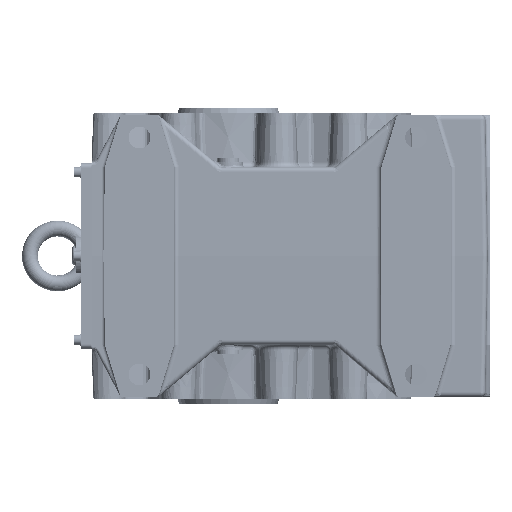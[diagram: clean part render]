
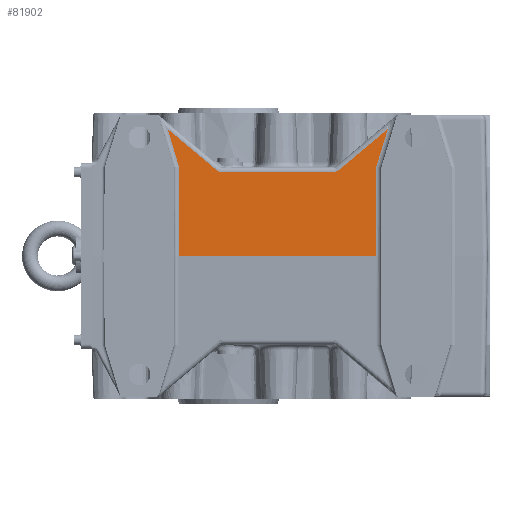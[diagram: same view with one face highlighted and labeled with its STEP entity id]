
A CAD part, left-side view. The second image highlights one B-rep face of the part: STEP entity #81902.
In plain terms, the highlighted planar face has unit normal (-1, 0, 0.018).
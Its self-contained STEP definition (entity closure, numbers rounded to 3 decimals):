
#81795=CARTESIAN_POINT('',(-154.989,50.,90.651));
#81796=VERTEX_POINT('',#81795);
#81804=CARTESIAN_POINT('',(-154.327,61.437,128.536));
#81805=VERTEX_POINT('',#81804);
#81806=CARTESIAN_POINT('',(-154.989,50.,90.651));
#81807=DIRECTION('',(0.017,0.289,0.957));
#81808=VECTOR('',#81807,39.579);
#81809=LINE('',#81806,#81808);
#81810=EDGE_CURVE('',#81796,#81805,#81809,.T.);
#81822=CARTESIAN_POINT('',(-156.571,-260.0,0.014));
#81823=DIRECTION('',(-1.,0.,0.017));
#81824=DIRECTION('',(0.017,0.,1.));
#81825=AXIS2_PLACEMENT_3D('',#81822,#81823,#81824);
#81826=PLANE('',#81825);
#81827=CARTESIAN_POINT('',(-155.045,-112.445,87.427));
#81828=VERTEX_POINT('',#81827);
#81829=CARTESIAN_POINT('',(-154.327,-161.437,128.536));
#81830=VERTEX_POINT('',#81829);
#81831=CARTESIAN_POINT('',(-155.045,-112.445,87.427));
#81832=DIRECTION('',(0.011,-0.766,0.643));
#81833=VECTOR('',#81832,63.958);
#81834=LINE('',#81831,#81833);
#81835=EDGE_CURVE('',#81828,#81830,#81834,.T.);
#81836=ORIENTED_EDGE('',*,*,#81835,.F.);
#81837=CARTESIAN_POINT('',(-155.086,-106.017,85.087));
#81838=VERTEX_POINT('',#81837);
#81839=CARTESIAN_POINT('',(-154.911,-106.017,95.087));
#81840=DIRECTION('',(-1.,0.,0.017));
#81841=DIRECTION('',(-0.017,0.,-1.));
#81842=AXIS2_PLACEMENT_3D('',#81839,#81840,#81841);
#81843=ELLIPSE('',#81842,10.002,10.0);
#81844=EDGE_CURVE('',#81838,#81828,#81843,.T.);
#81845=ORIENTED_EDGE('',*,*,#81844,.F.);
#81846=CARTESIAN_POINT('',(-155.086,6.017,85.087));
#81847=VERTEX_POINT('',#81846);
#81848=CARTESIAN_POINT('',(-155.086,6.017,85.087));
#81849=DIRECTION('',(0.0,-1.0,0.0));
#81850=VECTOR('',#81849,112.034);
#81851=LINE('',#81848,#81850);
#81852=EDGE_CURVE('',#81847,#81838,#81851,.T.);
#81853=ORIENTED_EDGE('',*,*,#81852,.F.);
#81854=CARTESIAN_POINT('',(-155.045,12.445,87.427));
#81855=VERTEX_POINT('',#81854);
#81856=CARTESIAN_POINT('',(-154.911,6.017,95.087));
#81857=DIRECTION('',(-1.,0.,0.017));
#81858=DIRECTION('',(-0.017,0.,-1.));
#81859=AXIS2_PLACEMENT_3D('',#81856,#81857,#81858);
#81860=ELLIPSE('',#81859,10.002,10.);
#81861=EDGE_CURVE('',#81855,#81847,#81860,.T.);
#81862=ORIENTED_EDGE('',*,*,#81861,.F.);
#81863=CARTESIAN_POINT('',(-154.327,61.437,128.536));
#81864=DIRECTION('',(-0.011,-0.766,-0.643));
#81865=VECTOR('',#81864,63.958);
#81866=LINE('',#81863,#81865);
#81867=EDGE_CURVE('',#81805,#81855,#81866,.T.);
#81868=ORIENTED_EDGE('',*,*,#81867,.F.);
#81869=ORIENTED_EDGE('',*,*,#81810,.F.);
#81870=CARTESIAN_POINT('',(-156.571,50.,0.0));
#81871=VERTEX_POINT('',#81870);
#81872=CARTESIAN_POINT('',(-156.571,50.,0.));
#81873=DIRECTION('',(0.017,0.0,1.));
#81874=VECTOR('',#81873,90.665);
#81875=LINE('',#81872,#81874);
#81876=EDGE_CURVE('',#81871,#81796,#81875,.T.);
#81877=ORIENTED_EDGE('',*,*,#81876,.F.);
#81878=CARTESIAN_POINT('',(-156.571,-150.0,0.0));
#81879=VERTEX_POINT('',#81878);
#81880=CARTESIAN_POINT('',(-156.571,-150.0,0.0));
#81881=DIRECTION('',(0.0,1.0,0.0));
#81882=VECTOR('',#81881,200.);
#81883=LINE('',#81880,#81882);
#81884=EDGE_CURVE('',#81871,#81879,#81883,.F.);
#81885=ORIENTED_EDGE('',*,*,#81884,.T.);
#81886=CARTESIAN_POINT('',(-154.989,-150.0,90.651));
#81887=VERTEX_POINT('',#81886);
#81888=CARTESIAN_POINT('',(-154.989,-150.0,90.651));
#81889=DIRECTION('',(-0.017,0.0,-1.));
#81890=VECTOR('',#81889,90.665);
#81891=LINE('',#81888,#81890);
#81892=EDGE_CURVE('',#81887,#81879,#81891,.T.);
#81893=ORIENTED_EDGE('',*,*,#81892,.F.);
#81894=CARTESIAN_POINT('',(-154.327,-161.437,128.536));
#81895=DIRECTION('',(-0.017,0.289,-0.957));
#81896=VECTOR('',#81895,39.579);
#81897=LINE('',#81894,#81896);
#81898=EDGE_CURVE('',#81830,#81887,#81897,.T.);
#81899=ORIENTED_EDGE('',*,*,#81898,.F.);
#81900=EDGE_LOOP('',(#81836,#81845,#81853,#81862,#81868,#81869,#81877,#81885,#81893,#81899));
#81901=FACE_OUTER_BOUND('',#81900,.T.);
#81902=ADVANCED_FACE('',(#81901),#81826,.T.);
